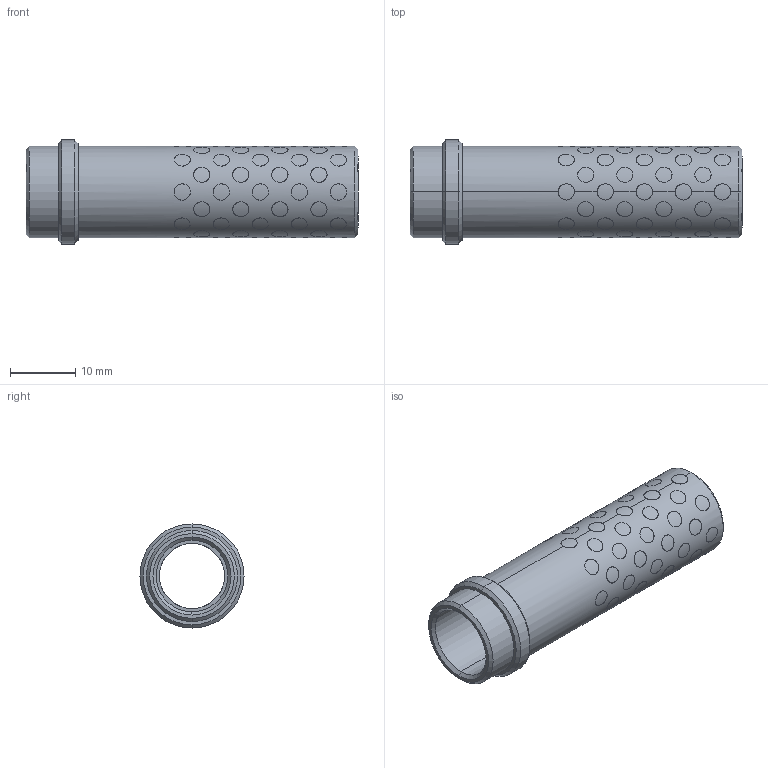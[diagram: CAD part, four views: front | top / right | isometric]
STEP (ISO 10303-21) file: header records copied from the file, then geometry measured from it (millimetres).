
FILE_DESCRIPTION((''),'2;1');
FILE_NAME('G31210046','2018-01-25T',('MANU'),(''),'PRO/ENGINEER BY PARAMETRIC TECHNOLOGY CORPORATION, 2012130','PRO/ENGINEER BY PARAMETRIC TECHNOLOGY CORPORATION, 2012130','');
FILE_SCHEMA(('CONFIG_CONTROL_DESIGN'));
Length unit declared in the file: millimetre
Products named in the file (1): G31210046
Bounding box: 51 x 16 x 16 mm (x, y, z)
Volume: 3600.2 mm3; surface area: 6372.3 mm2
Topology: 73 solids, 73 shells, 459 faces, 978 edges, 648 vertices
Faces by surface type: cylinder 442, cone 12, plane 5
Entity records: 20578 total; most frequent: CARTESIAN_POINT 11601, ORIENTED_EDGE 1956, DIRECTION 1312, EDGE_CURVE 978, VERTEX_POINT 648, B_SPLINE_CURVE_WITH_KNOTS 616, EDGE_LOOP 588, AXIS2_PLACEMENT_3D 491
